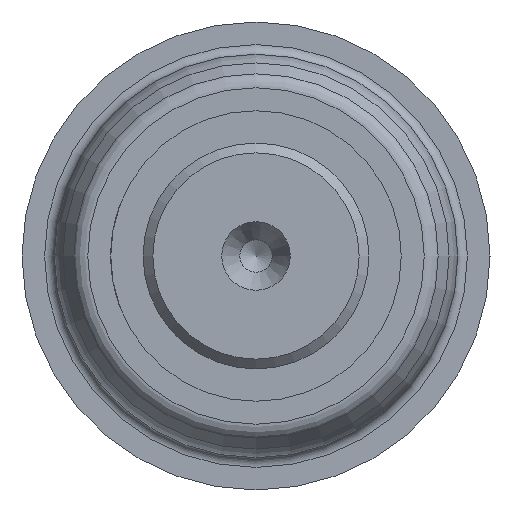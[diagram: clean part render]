
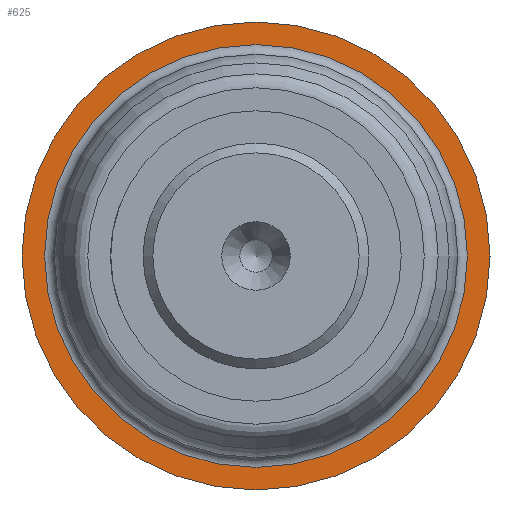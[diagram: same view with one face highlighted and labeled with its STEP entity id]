
A CAD part, left-side view. The second image highlights one B-rep face of the part: STEP entity #625.
In plain terms, the highlighted planar face has unit normal (-1, 0, 0).
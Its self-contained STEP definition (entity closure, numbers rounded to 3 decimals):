
#44=FACE_BOUND('',#118,.T.);
#54=PLANE('',#705);
#74=FACE_OUTER_BOUND('',#117,.T.);
#117=EDGE_LOOP('',(#462));
#118=EDGE_LOOP('',(#463));
#236=CIRCLE('',#700,13.1);
#240=CIRCLE('',#706,14.5);
#286=VERTEX_POINT('',#1024);
#289=VERTEX_POINT('',#1035);
#352=EDGE_CURVE('',#286,#286,#236,.T.);
#357=EDGE_CURVE('',#289,#289,#240,.T.);
#462=ORIENTED_EDGE('',*,*,#357,.F.);
#463=ORIENTED_EDGE('',*,*,#352,.F.);
#625=ADVANCED_FACE('',(#74,#44),#54,.T.);
#700=AXIS2_PLACEMENT_3D('',#1026,#816,#817);
#705=AXIS2_PLACEMENT_3D('',#1034,#827,#828);
#706=AXIS2_PLACEMENT_3D('',#1036,#829,#830);
#816=DIRECTION('center_axis',(-1.,0.,0.));
#817=DIRECTION('ref_axis',(0.,-1.,0.));
#827=DIRECTION('center_axis',(-1.,0.,0.));
#828=DIRECTION('ref_axis',(0.,0.,1.));
#829=DIRECTION('center_axis',(1.,0.,0.));
#830=DIRECTION('ref_axis',(0.,0.,-1.));
#1024=CARTESIAN_POINT('',(67.,0.,13.1));
#1026=CARTESIAN_POINT('Origin',(67.,0.,0.));
#1034=CARTESIAN_POINT('Origin',(67.,14.5,0.));
#1035=CARTESIAN_POINT('',(67.,-14.5,0.));
#1036=CARTESIAN_POINT('Origin',(67.,0.,0.));
